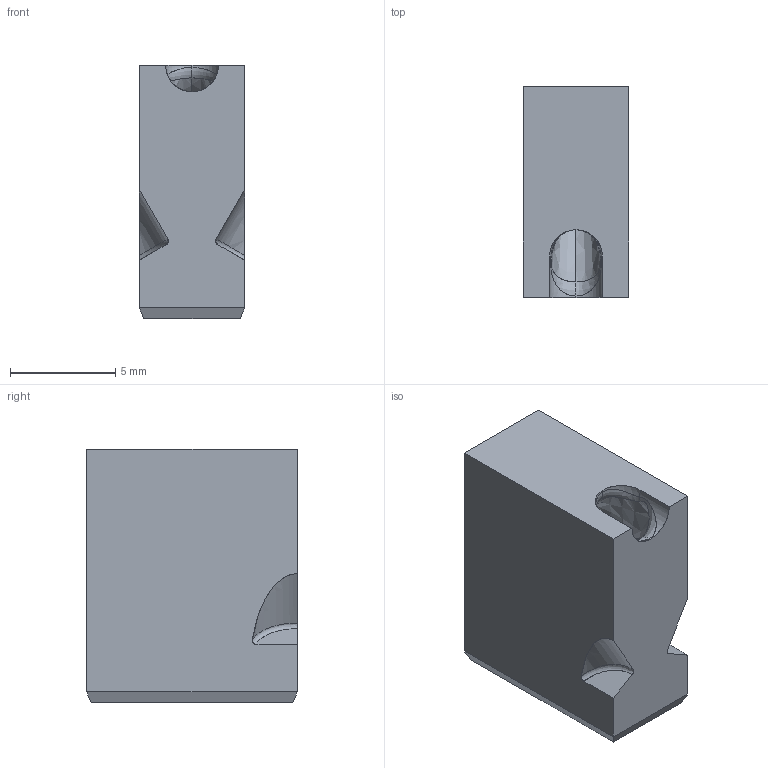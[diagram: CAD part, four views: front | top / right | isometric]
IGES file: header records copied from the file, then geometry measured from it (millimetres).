
Start section: START RECORD GO HERE.
Global section: file name: tgc-xs.igs; native system: DASSAULT SYSTEMES CATIA V5 R20 - www.3ds.com; preprocessor: CATIA Version 5 Release 20 ; author: Utente; organization: NB04-ASUS; date: 20210304.200707; units: millimetre
Bounding box: 5 x 10 x 12 mm (x, y, z)
Surface area: 637.3 mm2 (no closed solid volume)
Topology: 0 solids, 0 shells, 57 faces, 287 edges, 283 vertices
Faces by surface type: revolution 32, plane 13, bspline 12
